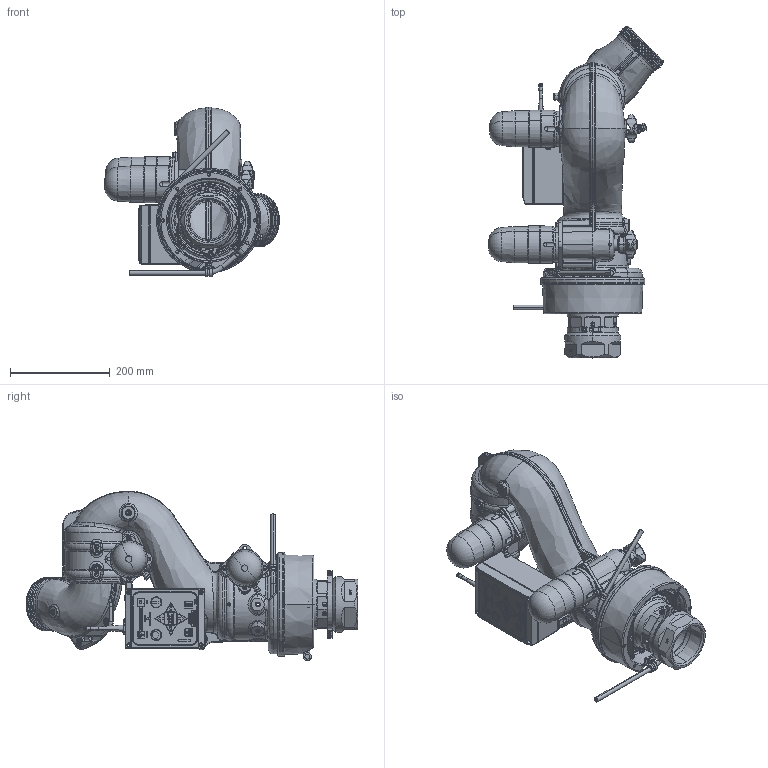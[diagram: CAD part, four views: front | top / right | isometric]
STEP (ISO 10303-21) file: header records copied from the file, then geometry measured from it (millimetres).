
FILE_DESCRIPTION (( 'STEP AP203' ), '1' );
FILE_NAME ('Y5-E61A_45_Up.STEP', '2014-07-03T16:55:50', ( '' ), ( '' ), 'SwSTEP 2.0', 'SolidWorks 2014', '' );
FILE_SCHEMA (( 'CONFIG_CONTROL_DESIGN' ));
Length unit declared in the file: inch
Products named in the file (1): Y5-E61A_45_Up
Bounding box: 351.37 x 666.83 x 340.61 mm (x, y, z)
Surface area: 968728.5 mm2 (no closed solid volume)
Topology: 0 solids, 222 shells, 2489 faces, 11173 edges, 8745 vertices
Faces by surface type: plane 741, cylinder 556, bspline 456, cone 356, torus 333, sphere 47
Entity records: 214906 total; most frequent: CARTESIAN_POINT 133170, ORIENTED_EDGE 15808, DIRECTION 14683, EDGE_CURVE 11153, VERTEX_POINT 8737, AXIS2_PLACEMENT_3D 4958, LINE 4767, VECTOR 4767
